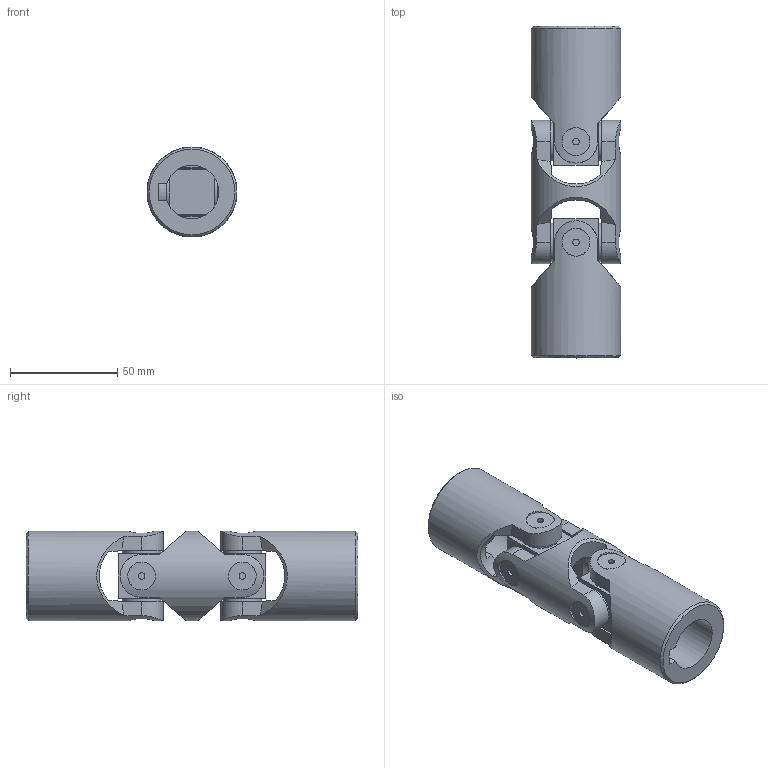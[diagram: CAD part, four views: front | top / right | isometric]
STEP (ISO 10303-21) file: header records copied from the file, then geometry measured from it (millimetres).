
FILE_DESCRIPTION(/* description */ (''),/* implementation_level */ '2;1');
FILE_NAME(/* name */ '\\SRV2016\Societa\Stefano\Disegni 3D\00Catalogo 3D\02Doppi GD-GBD\SGBD252C.stp',/* time_stamp */ '2021-11-23T13:35:02+01:00',/* author */ ('acquisti'),/* organization */ (''),/* preprocessor_version */ 'ST-DEVELOPER v15.6',/* originating_system */ 'Autodesk Inventor 2015',/* authorisation */ '');
FILE_SCHEMA (('AUTOMOTIVE_DESIGN { 1 0 10303 214 3 1 1 }'));
Length unit declared in the file: millimetre
Products named in the file (4): 3G MOD; 3G SFE; 5GB MOC; Ø42_5GBD-00_SGBD2500
Assembly tree (5 placements, depth 2):
  Ø42_5GBD-00_SGBD2500
    3G MOD
    3G SFE  x2
    5GB MOC  x2
Bounding box: 42 x 155 x 42 mm (x, y, z)
Volume: 131113.1 mm3; surface area: 40713.1 mm2
Topology: 5 solids, 5 shells, 167 faces, 397 edges, 260 vertices
Faces by surface type: plane 80, cylinder 63, cone 20, torus 4
Full cylindrical faces by diameter (mm): 3 x8, 18 x8, 22 x2, 42 x3
Entity records: 3895 total; most frequent: CARTESIAN_POINT 1352, ORIENTED_EDGE 510, DIRECTION 483, EDGE_CURVE 255, AXIS2_PLACEMENT_3D 214, VERTEX_POINT 179, EDGE_LOOP 152, FACE_OUTER_BOUND 115
